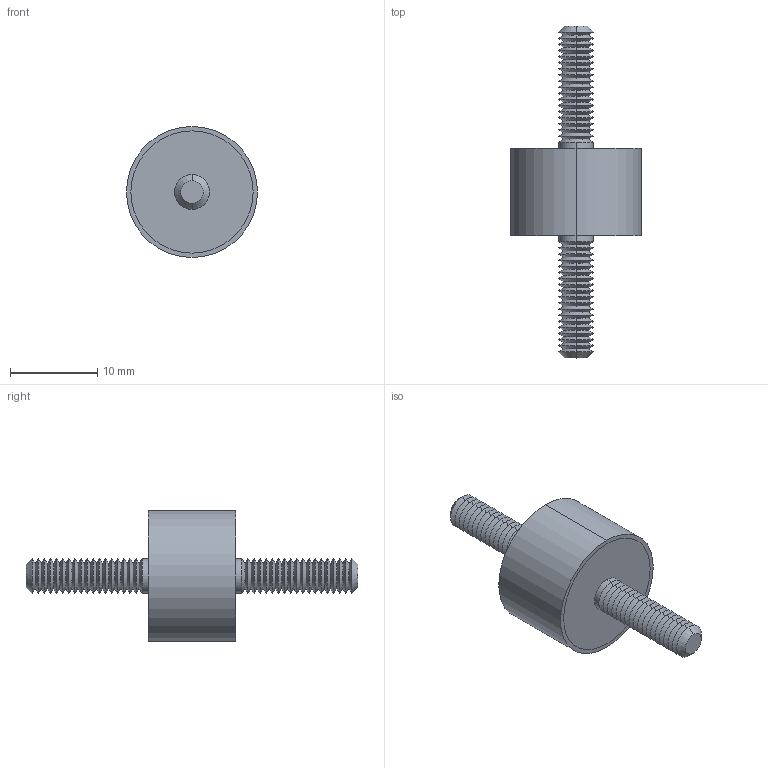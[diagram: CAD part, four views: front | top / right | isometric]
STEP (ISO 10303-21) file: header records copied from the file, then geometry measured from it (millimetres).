
FILE_DESCRIPTION (( 'STEP AP203' ), '1' );
FILE_NAME ('61040.W0152.step', '2019-09-24T22:23:50', ( '' ), ( '' ), 'SwSTEP 2.0', 'SolidWorks 2017', '' );
FILE_SCHEMA (( 'CONFIG_CONTROL_DESIGN' ));
Length unit declared in the file: millimetre
Products named in the file (4): 61040.W0152; Part2_61040.W0152; Part3_61040.W0152; Part1_61040.W0152
Assembly tree (3 placements, depth 2):
  61040.W0152
    Part1_61040.W0152
    Part2_61040.W0152
    Part3_61040.W0152
Bounding box: 15 x 38 x 15 mm (x, y, z)
Volume: 2027.3 mm3; surface area: 2089.3 mm2
Topology: 3 solids, 3 shells, 172 faces, 338 edges, 176 vertices
Faces by surface type: cone 148, cylinder 14, plane 10
Entity records: 4708 total; most frequent: DIRECTION 870, CARTESIAN_POINT 692, ORIENTED_EDGE 676, AXIS2_PLACEMENT_3D 354, EDGE_CURVE 338, EDGE_LOOP 176, CIRCLE 176, VERTEX_POINT 176
